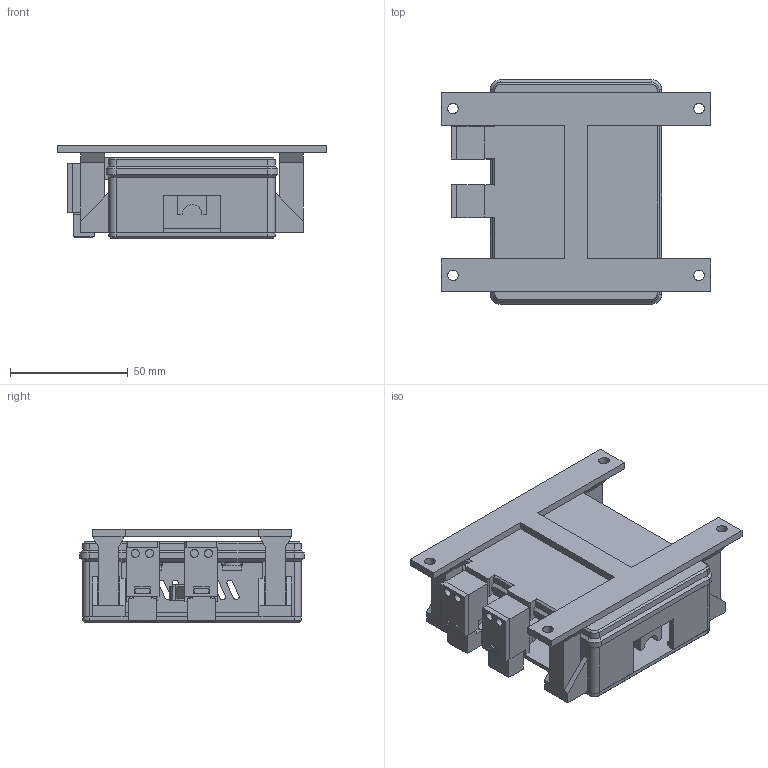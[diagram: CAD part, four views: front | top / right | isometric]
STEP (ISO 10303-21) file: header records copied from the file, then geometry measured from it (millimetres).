
FILE_DESCRIPTION(('Open CASCADE Model'),'2;1');
FILE_NAME('Open CASCADE Shape Model','2026-10-19T19:24:46',('Author'),( 'Open CASCADE'),'Open CASCADE STEP processor 7.9','build123d', 'Unknown');
FILE_SCHEMA(('AUTOMOTIVE_DESIGN { 1 0 10303 214 1 1 1 1 }'));
Length unit declared in the file: millimetre
Products named in the file (16): COMPOUND; lid; body; desk_bracket; pcb_clamp_left_front; pcb_clamp_left_rear; pcb_clamp_right_front; pcb_clamp_right_rear; reset_frame; reset_slider; reset_rear_keeper; reset_moving_magnet_keeper; boot_frame; boot_slider; boot_rear_keeper; boot_moving_magnet_keeper
Assembly tree (15 placements, depth 2):
  COMPOUND
    lid
    body
    desk_bracket
    pcb_clamp_left_front
    pcb_clamp_left_rear
    pcb_clamp_right_front
    pcb_clamp_right_rear
    reset_frame
    reset_slider
    reset_rear_keeper
    reset_moving_magnet_keeper
    boot_frame
    boot_slider
    boot_rear_keeper
    boot_moving_magnet_keeper
Bounding box: 114.5 x 95.2 x 39.6 mm (x, y, z)
Volume: 94279.5 mm3; surface area: 74243.9 mm2
Topology: 15 solids, 15 shells, 662 faces, 1784 edges, 1192 vertices
Faces by surface type: plane 522, cylinder 123, cone 16, bspline 1
Full cylindrical faces by diameter (mm): 3.4 x22, 4 x18, 4.5 x4
Entity records: 56223 total; most frequent: CARTESIAN_POINT 22391, DIRECTION 5580, LINE 4182, VECTOR 4182, ORIENTED_EDGE 3568, PCURVE 3568, DEFINITIONAL_REPRESENTATION 3568, EDGE_CURVE 1784
